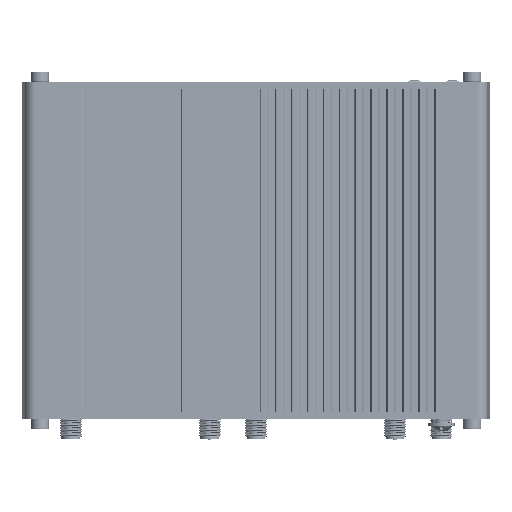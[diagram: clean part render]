
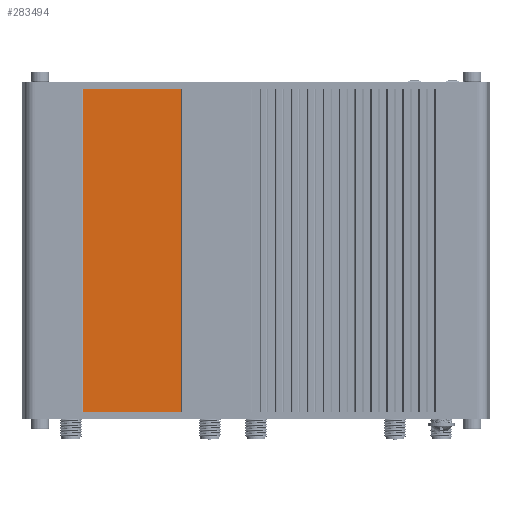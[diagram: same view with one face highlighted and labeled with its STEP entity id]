
A CAD part, front view. The second image highlights one B-rep face of the part: STEP entity #283494.
In plain terms, the highlighted planar face has unit normal (0, -1, 0).
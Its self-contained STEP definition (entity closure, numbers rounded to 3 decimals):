
#4619 = LINE ( 'NONE', #26410, #261418 ) ;
#16051 = CARTESIAN_POINT ( 'NONE',  ( -48.9, -21.85, -45.5 ) ) ;
#26410 = CARTESIAN_POINT ( 'NONE',  ( -48.9, -21.85, -45.5 ) ) ;
#31746 = VERTEX_POINT ( 'NONE', #194755 ) ;
#32071 = CARTESIAN_POINT ( 'NONE',  ( -48.9, -21.85, 45.5 ) ) ;
#52429 = VERTEX_POINT ( 'NONE', #16051 ) ;
#54455 = ORIENTED_EDGE ( 'NONE', *, *, #229392, .T. ) ;
#66099 = EDGE_CURVE ( 'NONE', #31746, #131700, #257548, .T. ) ;
#80501 = EDGE_CURVE ( 'NONE', #131700, #121003, #102810, .T. ) ;
#80773 = PLANE ( 'NONE',  #211793 ) ;
#95716 = DIRECTION ( 'NONE',  ( 0., 0., 1. ) ) ;
#97363 = EDGE_CURVE ( 'NONE', #31746, #52429, #180684, .T. ) ;
#102508 = FACE_OUTER_BOUND ( 'NONE', #257035, .T. ) ;
#102810 = LINE ( 'NONE', #123060, #113403 ) ;
#105039 = VECTOR ( 'NONE', #268944, 1000. ) ;
#113403 = VECTOR ( 'NONE', #170743, 1000. ) ;
#115602 = CARTESIAN_POINT ( 'NONE',  ( -48.9, -21.85, 45.5 ) ) ;
#121003 = VERTEX_POINT ( 'NONE', #206738 ) ;
#123060 = CARTESIAN_POINT ( 'NONE',  ( -21.1, -21.85, 45.5 ) ) ;
#125912 = CARTESIAN_POINT ( 'NONE',  ( -48.9, -21.85, 45.5 ) ) ;
#131700 = VERTEX_POINT ( 'NONE', #270268 ) ;
#148906 = VECTOR ( 'NONE', #214124, 1000. ) ;
#170743 = DIRECTION ( 'NONE',  ( 0., 0., -1. ) ) ;
#175718 = ORIENTED_EDGE ( 'NONE', *, *, #80501, .F. ) ;
#180684 = LINE ( 'NONE', #115602, #105039 ) ;
#194755 = CARTESIAN_POINT ( 'NONE',  ( -48.9, -21.85, 45.5 ) ) ;
#199123 = ORIENTED_EDGE ( 'NONE', *, *, #66099, .F. ) ;
#202789 = DIRECTION ( 'NONE',  ( 1., 0., 0. ) ) ;
#205614 = DIRECTION ( 'NONE',  ( 0., 1., 0. ) ) ;
#206738 = CARTESIAN_POINT ( 'NONE',  ( -21.1, -21.85, -45.5 ) ) ;
#211793 = AXIS2_PLACEMENT_3D ( 'NONE', #32071, #205614, #95716 ) ;
#214124 = DIRECTION ( 'NONE',  ( 1., 0., 0. ) ) ;
#229392 = EDGE_CURVE ( 'NONE', #52429, #121003, #4619, .T. ) ;
#257035 = EDGE_LOOP ( 'NONE', ( #54455, #175718, #199123, #272185 ) ) ;
#257548 = LINE ( 'NONE', #125912, #148906 ) ;
#261418 = VECTOR ( 'NONE', #202789, 1000. ) ;
#268944 = DIRECTION ( 'NONE',  ( 0., 0., -1. ) ) ;
#270268 = CARTESIAN_POINT ( 'NONE',  ( -21.1, -21.85, 45.5 ) ) ;
#272185 = ORIENTED_EDGE ( 'NONE', *, *, #97363, .T. ) ;
#283494 = ADVANCED_FACE ( 'NONE', ( #102508 ), #80773, .F. ) ;
